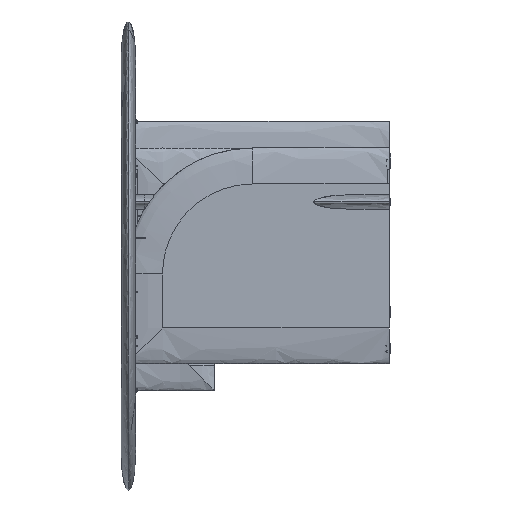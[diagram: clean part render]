
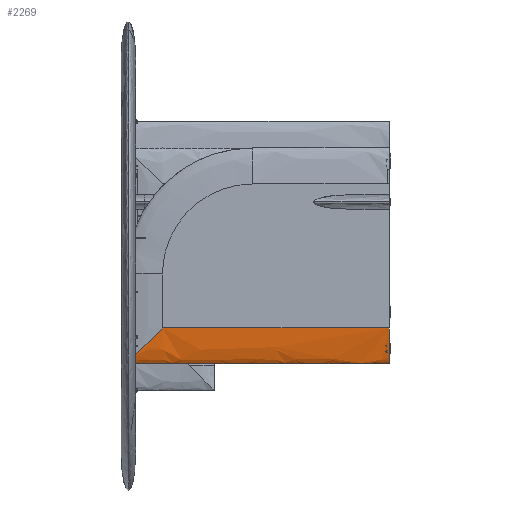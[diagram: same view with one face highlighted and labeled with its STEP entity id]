
A CAD part, left-side view. The second image highlights one B-rep face of the part: STEP entity #2269.
In plain terms, the highlighted free-form (B-spline) face has degree [3, 1] with [4, 2] control points.
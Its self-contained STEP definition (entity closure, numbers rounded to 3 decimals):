
#118 = CARTESIAN_POINT ( 'NONE',  ( 195.959, 661.335, -381.335 ) ) ;
#488 = ORIENTED_EDGE ( 'NONE', *, *, #13910, .F. ) ;
#506 = CARTESIAN_POINT ( 'NONE',  ( 235., 0., -350. ) ) ;
#608 = CARTESIAN_POINT ( 'NONE',  ( 228.229, 705., -425. ) ) ;
#694 = CARTESIAN_POINT ( 'NONE',  ( 195., 0., -350. ) ) ;
#999 = ORIENTED_EDGE ( 'NONE', *, *, #11711, .T. ) ;
#1046 = CARTESIAN_POINT ( 'NONE',  ( 235., 0., -550. ) ) ;
#1188 = CARTESIAN_POINT ( 'NONE',  ( 195., 0., -550. ) ) ;
#1545 = CARTESIAN_POINT ( 'NONE',  ( 235., 730.6, -350. ) ) ;
#2145 = CARTESIAN_POINT ( 'NONE',  ( 195.015, 633.919, -353.919 ) ) ;
#2269 = ADVANCED_FACE ( 'NONE', ( #15835 ), #2651, .T. ) ;
#2651 =( BOUNDED_SURFACE ( )  B_SPLINE_SURFACE ( 3, 1, ( 
 ( #22545, #11492 ),
 ( #25424, #1188 ),
 ( #8116, #1046 ),
 ( #23394, #3502 ) ),
 .UNSPECIFIED., .F., .F., .F. ) 
 B_SPLINE_SURFACE_WITH_KNOTS ( ( 4, 4 ),
 ( 2, 2 ),
 ( 0., 1. ),
 ( 0., 1. ),
 .UNSPECIFIED. ) 
 GEOMETRIC_REPRESENTATION_ITEM ( )  RATIONAL_B_SPLINE_SURFACE ( (
 ( 1., 1.),
 ( 0.333, 0.333),
 ( 0.333, 0.333),
 ( 1., 1.) ) ) 
 REPRESENTATION_ITEM ( '' )  SURFACE ( )  );
#2726 = CARTESIAN_POINT ( 'NONE',  ( 195., 630.784, -350.784 ) ) ;
#2819 = VERTEX_POINT ( 'NONE', #6049 ) ;
#3429 = EDGE_CURVE ( 'NONE', #23946, #7789, #24238, .T. ) ;
#3502 = CARTESIAN_POINT ( 'NONE',  ( 235., 0., -350. ) ) ;
#3727 = DIRECTION ( 'NONE',  ( 0., -1., 0. ) ) ;
#3753 = CARTESIAN_POINT ( 'NONE',  ( 235., 0., -350. ) ) ;
#4025 = CARTESIAN_POINT ( 'NONE',  ( 231.098, 689.464, -409.464 ) ) ;
#4295 = CARTESIAN_POINT ( 'NONE',  ( 229.537, 698.802, -418.802 ) ) ;
#4304 = CARTESIAN_POINT ( 'NONE',  ( 196.721, 670.723, -390.723 ) ) ;
#4605 = CARTESIAN_POINT ( 'NONE',  ( 195.597, 655.071, -375.071 ) ) ;
#4899 = CARTESIAN_POINT ( 'NONE',  ( 195., 630.394, -350.394 ) ) ;
#5606 = CARTESIAN_POINT ( 'NONE',  ( 195., 730.6, -350. ) ) ;
#6046 = CARTESIAN_POINT ( 'NONE',  ( 232.323, 680.101, -400.101 ) ) ;
#6049 = CARTESIAN_POINT ( 'NONE',  ( 235., 630., -350. ) ) ;
#6292 =( BOUNDED_CURVE ( )  B_SPLINE_CURVE ( 3, ( #14932, #21611, #19574, #3753 ),
 .UNSPECIFIED., .F., .T. ) 
 B_SPLINE_CURVE_WITH_KNOTS ( ( 4, 4 ),
 ( 1.571, 4.712 ),
 .UNSPECIFIED. ) 
 CURVE ( )  GEOMETRIC_REPRESENTATION_ITEM ( )  RATIONAL_B_SPLINE_CURVE ( ( 1., 0.333, 0.333, 1. ) ) 
 REPRESENTATION_ITEM ( '' )  );
#6335 = CARTESIAN_POINT ( 'NONE',  ( 235., 630., -350. ) ) ;
#6484 = CARTESIAN_POINT ( 'NONE',  ( 198.051, 683.225, -403.225 ) ) ;
#7063 = CARTESIAN_POINT ( 'NONE',  ( 197.011, 673.85, -393.85 ) ) ;
#7593 = ORIENTED_EDGE ( 'NONE', *, *, #20678, .F. ) ;
#7789 = VERTEX_POINT ( 'NONE', #19643 ) ;
#8116 = CARTESIAN_POINT ( 'NONE',  ( 235., 705., -550. ) ) ;
#8382 = CARTESIAN_POINT ( 'NONE',  ( 228.229, 705., -425. ) ) ;
#9972 = LINE ( 'NONE', #5606, #19358 ) ;
#10729 = VECTOR ( 'NONE', #3727, 1000. ) ;
#10983 = CARTESIAN_POINT ( 'NONE',  ( 228.93, 701.907, -421.907 ) ) ;
#11132 = CARTESIAN_POINT ( 'NONE',  ( 201.07, 701.907, -421.907 ) ) ;
#11267 = CARTESIAN_POINT ( 'NONE',  ( 195.059, 637.836, -357.836 ) ) ;
#11492 = CARTESIAN_POINT ( 'NONE',  ( 195., 0., -350. ) ) ;
#11711 = EDGE_CURVE ( 'NONE', #23946, #25447, #19286, .T. ) ;
#12721 = CARTESIAN_POINT ( 'NONE',  ( 233.279, 670.722, -390.722 ) ) ;
#13467 = CARTESIAN_POINT ( 'NONE',  ( 195., 630., -350. ) ) ;
#13910 = EDGE_CURVE ( 'NONE', #20798, #21042, #6292, .T. ) ;
#14385 = CARTESIAN_POINT ( 'NONE',  ( 201.771, 705., -425. ) ) ;
#14761 = ORIENTED_EDGE ( 'NONE', *, *, #26933, .T. ) ;
#14932 = CARTESIAN_POINT ( 'NONE',  ( 195., 0., -350. ) ) ;
#15351 = CARTESIAN_POINT ( 'NONE',  ( 200.463, 698.802, -418.802 ) ) ;
#15487 = CARTESIAN_POINT ( 'NONE',  ( 195.037, 636.269, -356.269 ) ) ;
#15835 = FACE_OUTER_BOUND ( 'NONE', #21974, .T. ) ;
#15918 = CARTESIAN_POINT ( 'NONE',  ( 195.006, 632.743, -352.743 ) ) ;
#18106 = CARTESIAN_POINT ( 'NONE',  ( 195.237, 645.671, -365.671 ) ) ;
#18570 = EDGE_CURVE ( 'NONE', #7789, #20798, #9972, .T. ) ;
#19286 =( BOUNDED_CURVE ( )  B_SPLINE_CURVE ( 3, ( #19438, #25969, #28273, #8382 ),
 .UNSPECIFIED., .F., .F. ) 
 B_SPLINE_CURVE_WITH_KNOTS ( ( 4, 4 ),
 ( 2.419, 3.864 ),
 .UNSPECIFIED. ) 
 CURVE ( )  GEOMETRIC_REPRESENTATION_ITEM ( )  RATIONAL_B_SPLINE_CURVE ( ( 1., 0.833, 0.833, 1. ) ) 
 REPRESENTATION_ITEM ( '' )  );
#19358 = VECTOR ( 'NONE', #27371, 1000. ) ;
#19417 = CARTESIAN_POINT ( 'NONE',  ( 230.622, 692.58, -412.58 ) ) ;
#19438 = CARTESIAN_POINT ( 'NONE',  ( 201.771, 705., -425. ) ) ;
#19560 = CARTESIAN_POINT ( 'NONE',  ( 234.041, 661.335, -381.335 ) ) ;
#19574 = CARTESIAN_POINT ( 'NONE',  ( 235., 0., -550. ) ) ;
#19643 = CARTESIAN_POINT ( 'NONE',  ( 195., 630., -350. ) ) ;
#19856 = CARTESIAN_POINT ( 'NONE',  ( 231.949, 683.225, -403.225 ) ) ;
#19957 = B_SPLINE_CURVE_WITH_KNOTS ( 'NONE', 3,
 ( #6335, #25947, #24068, #28547, #19560, #12721, #26082, #6046, #19856, #4025, #19417, #4295, #10983, #26764 ),
 .UNSPECIFIED., .F., .F.,
 ( 4, 2, 2, 2, 2, 2, 4 ),
 ( 0., 0.026, 0.053, 0.066, 0.08, 0.093, 0.106 ),
 .UNSPECIFIED. ) ;
#20157 = CARTESIAN_POINT ( 'NONE',  ( 198.902, 689.464, -409.464 ) ) ;
#20678 = EDGE_CURVE ( 'NONE', #2819, #25447, #19957, .T. ) ;
#20798 = VERTEX_POINT ( 'NONE', #694 ) ;
#21042 = VERTEX_POINT ( 'NONE', #506 ) ;
#21582 = LINE ( 'NONE', #1545, #10729 ) ;
#21611 = CARTESIAN_POINT ( 'NONE',  ( 195., 0., -550. ) ) ;
#21974 = EDGE_LOOP ( 'NONE', ( #23502, #999, #7593, #14761, #488, #25171 ) ) ;
#22545 = CARTESIAN_POINT ( 'NONE',  ( 195., 705., -350. ) ) ;
#23394 = CARTESIAN_POINT ( 'NONE',  ( 235., 705., -350. ) ) ;
#23502 = ORIENTED_EDGE ( 'NONE', *, *, #3429, .F. ) ;
#23946 = VERTEX_POINT ( 'NONE', #14385 ) ;
#24068 = CARTESIAN_POINT ( 'NONE',  ( 234.883, 642.537, -362.537 ) ) ;
#24238 = B_SPLINE_CURVE_WITH_KNOTS ( 'NONE', 3,
 ( #26662, #11132, #15351, #26941, #20157, #6484, #24511, #7063, #4304, #118, #4605, #18106, #26808, #11267, #15487, #2145, #15918, #24791, #2726, #4899, #13467 ),
 .UNSPECIFIED., .F., .F.,
 ( 4, 2, 2, 2, 2, 2, 2, 2, 1, 2, 4 ),
 ( 0.039, 0.053, 0.066, 0.079, 0.093, 0.119, 0.133, 0.139, 0.143, 0.144, 0.146 ),
 .UNSPECIFIED. ) ;
#24511 = CARTESIAN_POINT ( 'NONE',  ( 197.677, 680.101, -400.101 ) ) ;
#24791 = CARTESIAN_POINT ( 'NONE',  ( 195.002, 631.568, -351.568 ) ) ;
#25171 = ORIENTED_EDGE ( 'NONE', *, *, #18570, .F. ) ;
#25424 = CARTESIAN_POINT ( 'NONE',  ( 195., 705., -550. ) ) ;
#25447 = VERTEX_POINT ( 'NONE', #608 ) ;
#25947 = CARTESIAN_POINT ( 'NONE',  ( 235., 636.269, -356.269 ) ) ;
#25969 = CARTESIAN_POINT ( 'NONE',  ( 209.708, 705., -460. ) ) ;
#26082 = CARTESIAN_POINT ( 'NONE',  ( 232.989, 673.85, -393.85 ) ) ;
#26662 = CARTESIAN_POINT ( 'NONE',  ( 201.771, 705., -425. ) ) ;
#26764 = CARTESIAN_POINT ( 'NONE',  ( 228.229, 705., -425. ) ) ;
#26808 = CARTESIAN_POINT ( 'NONE',  ( 195.148, 642.537, -362.537 ) ) ;
#26933 = EDGE_CURVE ( 'NONE', #2819, #21042, #21582, .T. ) ;
#26941 = CARTESIAN_POINT ( 'NONE',  ( 199.378, 692.58, -412.58 ) ) ;
#27371 = DIRECTION ( 'NONE',  ( 0., -1., 0. ) ) ;
#28273 = CARTESIAN_POINT ( 'NONE',  ( 220.292, 705., -460. ) ) ;
#28547 = CARTESIAN_POINT ( 'NONE',  ( 234.403, 655.071, -375.071 ) ) ;
